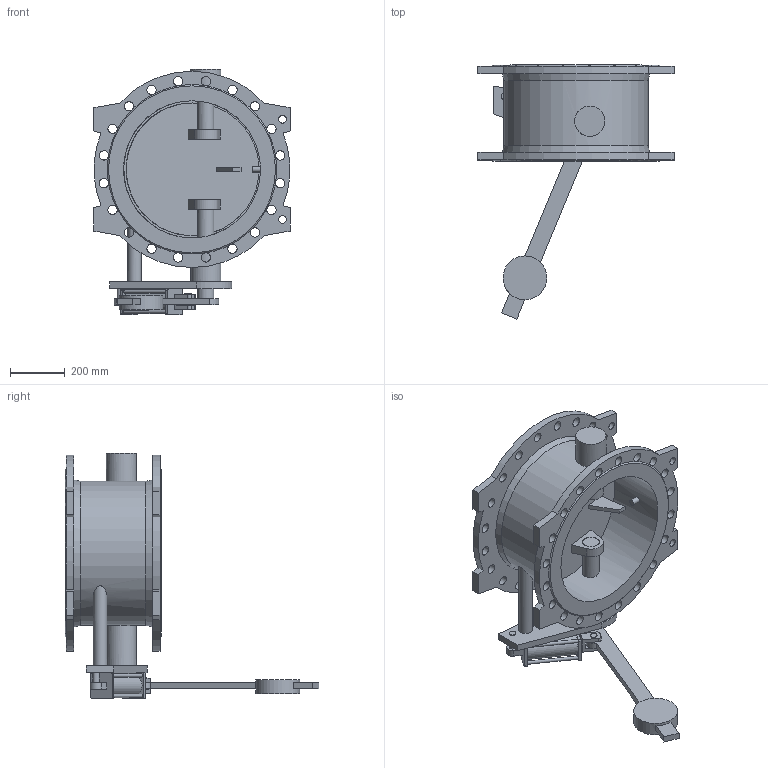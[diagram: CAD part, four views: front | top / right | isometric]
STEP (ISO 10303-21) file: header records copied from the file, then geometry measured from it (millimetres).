
FILE_DESCRIPTION(('STEP AP203'), '1');
FILE_NAME('Êëàïàí 015F.PV DN500 PN16 ñ ïðîòèâîâåñîì ñ äåìïôåðîì', '', ('UNSPECIFIED'), ('UNSPECIFIED'), 'ASCON STEP Converter 1.6', 'ASCON Math Kernel', '');
FILE_SCHEMA(('CONFIG_CONTROL_DESIGN'));
Length unit declared in the file: millimetre
Bounding box: 715 x 925 x 895 mm (x, y, z)
Volume: 29796956.8 mm3; surface area: 3192739.6 mm2
Topology: 1 solids, 1 shells, 207 faces, 644 edges, 427 vertices
Faces by surface type: plane 100, cylinder 98, cone 4, extrusion 2, torus 2, bspline 1
Full cylindrical faces by diameter (mm): 12 x5, 18 x2, 20 x1, 24 x7, 28 x4, 30 x1, 34 x40, 50 x1, 60 x3, 62 x2, 80 x1, 110 x2, 160 x1, 500 x1, 526 x1
Entity records: 12293 total; most frequent: CARTESIAN_POINT 4854, DIRECTION 1182, ORIENTED_EDGE 1116, EDGE_CURVE 558, AXIS2_PLACEMENT_3D 483, VERTEX_POINT 426, EDGE_LOOP 390, CIRCLE 278
